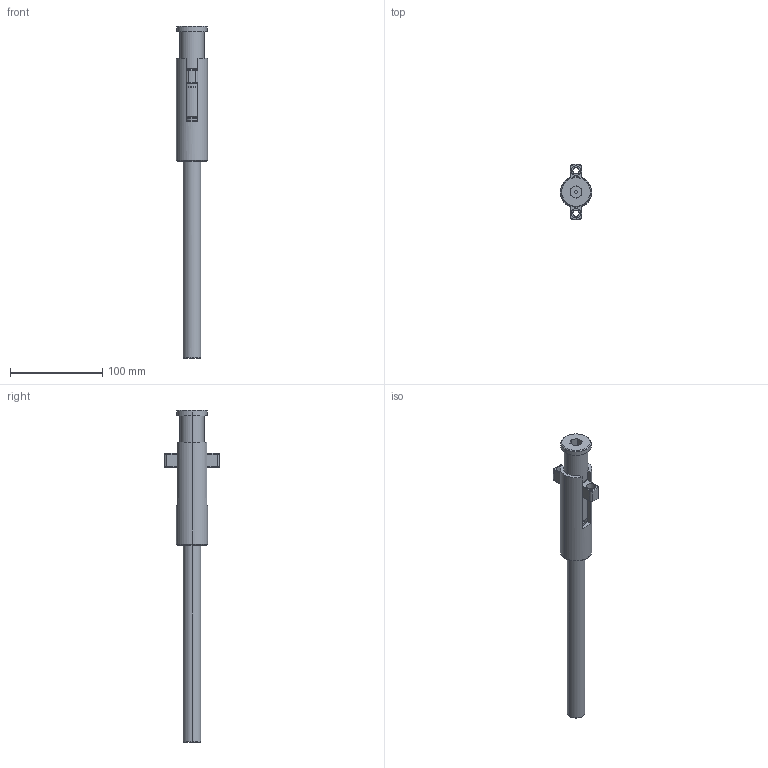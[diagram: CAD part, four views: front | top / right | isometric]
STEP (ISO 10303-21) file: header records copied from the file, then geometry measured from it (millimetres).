
FILE_DESCRIPTION (( 'STEP AP203' ), '1' );
FILE_NAME ('DKL3412.STEP', '2013-08-26T10:44:41', ( '' ), ( '' ), 'SwSTEP 2.0', 'SolidWorks 2013', '' );
FILE_SCHEMA (( 'CONFIG_CONTROL_DESIGN' ));
Length unit declared in the file: millimetre
Products named in the file (9): DKL3412; DKL3051; DKL3021; DKL3041; DKL3082; DKL3071; DKL3031; DKL3011; DKL3062
Assembly tree (11 placements, depth 2):
  DKL3412
    DKL3031
    DKL3062  x4
    DKL3051
    DKL3021
    DKL3041
    DKL3082
    DKL3071
    DKL3011
Bounding box: 34 x 59.94 x 359 mm (x, y, z)
Volume: 159107.5 mm3; surface area: 59829.9 mm2
Topology: 11 solids, 11 shells, 489 faces, 1151 edges, 692 vertices
Faces by surface type: plane 158, cylinder 142, cone 127, torus 56, bspline 6
Entity records: 16486 total; most frequent: CARTESIAN_POINT 5884, DIRECTION 2155, ORIENTED_EDGE 1918, EDGE_CURVE 959, AXIS2_PLACEMENT_3D 870, VERTEX_POINT 581, EDGE_LOOP 452, CIRCLE 451
